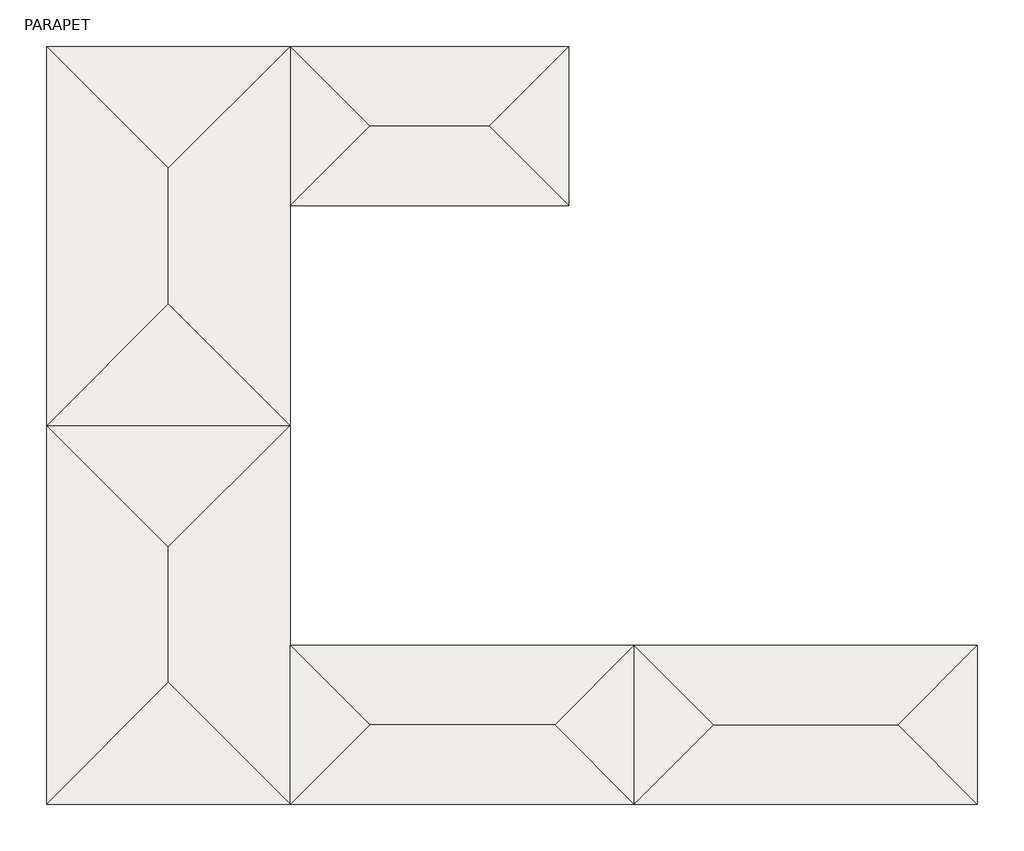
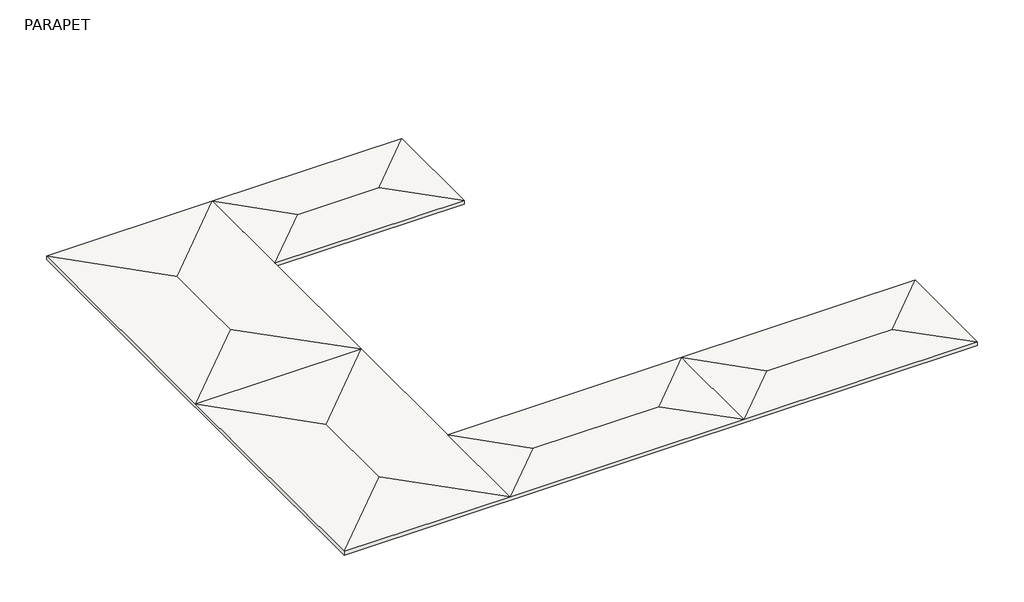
# One storey: 1 roof.
"""IFC4 building model written with IfcOpenShell, lengths in millimetres."""

from ifc_helpers import new_model, si_unit, origin, place, context, project, spatial, faceted_brep, element, save

model = new_model("IFC4")

# Units and contexts
model_context = context("Model", 3, world=origin())
ifc_project = project(units=[si_unit("LENGTHUNIT", "METRE", prefix="MILLI")], contexts=[model_context])

# Site, building, storey
site = spatial("IfcSite", under=ifc_project)
building = spatial("IfcBuilding", under=site)
storey = spatial("IfcBuildingStorey", under=building, Name="PARAPET", Elevation=12400.0)

# Roof
placement = place(None, origin())
element("IfcRoof", 1, ObjectType="250mm Concret 150mm Insulation", at=placement, inside=storey, context=model_context, shape_type="Brep", body=[
    faceted_brep([(-10026.8386635, 30818.5799804, 11000.0), (27411.8999097, 30818.5799804, 11000.0), (27411.8999097, 19414.8392059, 11000.0), (7447.5010724, 19414.8392059, 11000.0), (7447.5010724, -12132.3615692, 11000.0), (56699.1173382, -12132.3615692, 11000.0), (56699.1173382, -23510.7006057, 11000.0), (-10026.8386635, -23510.7006057, 11000.0), (-10026.8386635, -23510.7006057, 11400.0), (-10026.8386635, 3653.9396873, 11400.0), (-10026.8386635, 30818.5799804, 11400.0), (7447.5010724, 30818.5799804, 11400.0), (27411.8999097, 30818.5799804, 11400.0), (27411.8999097, 19414.8392059, 11400.0), (7447.5010724, 19414.8392059, 11400.0), (7447.5010724, 3653.9396873, 11400.0), (7447.5010724, -12132.3615692, 11400.0), (32073.3092053, -12132.3615692, 11400.0), (56699.1173382, -12132.3615692, 11400.0), (56699.1173382, -23510.7006057, 11400.0), (32073.3092053, -23510.7006057, 11400.0), (7447.5010724, -23510.7006057, 11400.0), (21710.0295224, 25116.7095931, 11350.0), (13149.3714596, 25116.7095931, 11350.0), (-1289.6687956, 22081.4101124, 11350.0), (-1289.6687956, 12391.1095553, 11350.0), (-1289.6687956, -14773.5307378, 11350.0), (51009.94782, -17821.5310875, 11350.0), (13136.6705906, -17821.5310875, 11350.0), (-1289.6687956, -5083.2301806, 11350.0), (26384.1396871, -17821.5310875, 11350.0), (37762.4787235, -17821.5310875, 11350.0)], [[[0, 1, 2, 3, 4, 5, 6, 7]], [[0, 7, 8, 9, 10]], [[1, 0, 10, 11, 12]], [[2, 1, 12, 13]], [[3, 2, 13, 14]], [[4, 3, 14, 15, 16]], [[5, 4, 16, 17, 18]], [[6, 5, 18, 19]], [[7, 6, 19, 20, 21, 8]], [[14, 13, 22, 23]], [[14, 11, 24, 25, 15]], [[8, 21, 26]], [[19, 18, 27]], [[16, 21, 28]], [[14, 23, 11]], [[13, 12, 22]], [[12, 11, 23, 22]], [[10, 9, 25, 24]], [[10, 24, 11]], [[9, 15, 25]], [[16, 15, 29, 26, 21]], [[9, 29, 15]], [[8, 26, 29, 9]], [[21, 20, 30, 28]], [[16, 28, 30, 17]], [[17, 30, 20]], [[17, 20, 31]], [[18, 17, 31, 27]], [[19, 27, 31, 20]]]),
])

save(model, "model.ifc")
